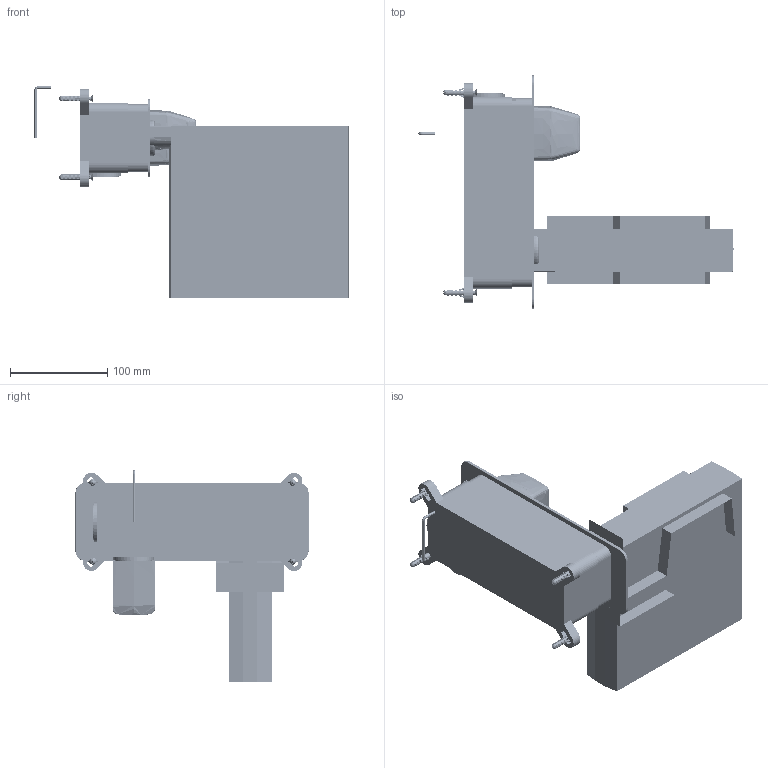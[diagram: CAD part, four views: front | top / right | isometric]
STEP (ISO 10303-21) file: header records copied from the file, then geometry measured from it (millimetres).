
FILE_DESCRIPTION((''),'2;1');
FILE_NAME('PT-869003_ASM','2024-04-18T09:25:43',('GL-JISHU1'),(''),'CREO PARAMETRIC BY PTC INC, 2021063','CREO PARAMETRIC BY PTC INC, 2021063','');
FILE_SCHEMA(('AUTOMOTIVE_DESIGN { 1 0 10303 214 1 1 1 1 }'));
Products named in the file (36): 4ZT-869006-BJJ; 3FX-001038-MMA-1; 3FX-001038-MAA-2; 3FX-001038-MAA_ASM; 4TT-001081-AJJ; 5TT-001082-ACR; 3ZG-010013-GCR; 3BS-181003-HCR; 3LS-001063-JAA; 3SN-001001-MCR; 4JT-001173-AJJ; 3JQ-001079-NAA; 3MB-001080-KAA_AF0; 3MB-001078-1-KAA_AF0; 3MB-001080-KCR_ASM; 5SZ-001058-BCR; 3LS-001024-JAA; 3LS-001042-JAA; 3JQ-001519-NAA; 3WK-001004-ACR; 3JT-001174-MAA; 3JQ-001118-NAA; 869006_YMH_DD; 86035_YMH_JJDD_A; 869006_YMH_TT; YTLS-M5X14; 869006-YMH-G; 3SJ-001071-MAA_ASM; 3SJ-001002-MAA; 3LS-001749-JAA; M55_ASM; 3SS-001002-KAA; 3WD-001024-MAA; 3JQ-001558-NAA; 3LS-001744-JAA; PT-869003_ASM
Assembly tree (45 placements, depth 3):
  PT-869003_ASM
    4ZT-869006-BJJ
    3FX-001038-MAA_ASM
      3FX-001038-MMA-1
      3FX-001038-MAA-2
    4TT-001081-AJJ
    5TT-001082-ACR
    3ZG-010013-GCR
    3BS-181003-HCR
    3LS-001063-JAA
    3SN-001001-MCR
    4JT-001173-AJJ
    3JQ-001079-NAA  x2
    3MB-001080-KCR_ASM
      3MB-001080-KAA_AF0
      3MB-001078-1-KAA_AF0
    5SZ-001058-BCR
    3LS-001024-JAA  x2
    3LS-001042-JAA  x2
    3JQ-001519-NAA
    3WK-001004-ACR
    3JT-001174-MAA
    3JQ-001118-NAA
    3SJ-001071-MAA_ASM
      869006_YMH_DD
      86035_YMH_JJDD_A  x2
      869006_YMH_TT
      YTLS-M5X14  x4
      869006-YMH-G
    M55_ASM  x4
      3SJ-001002-MAA
      3LS-001749-JAA
    3SS-001002-KAA
    3WD-001024-MAA
    3JQ-001558-NAA
    3LS-001744-JAA
Bounding box: 324.44 x 240 x 218.19 mm (x, y, z)
Volume: 517990.9 mm3; surface area: 747073.1 mm2
Topology: 52 solids, 80 shells, 4132 faces, 11176 edges, 7221 vertices
Faces by surface type: cylinder 1639, plane 1496, bspline 512, cone 251, torus 202, sphere 32
Entity records: 168716 total; most frequent: CARTESIAN_POINT 62854, DIRECTION 17885, ORIENTED_EDGE 17189, EDGE_CURVE 8668, AXIS2_PLACEMENT_3D 6568, VERTEX_POINT 5546, VECTOR 4645, LINE 4645
